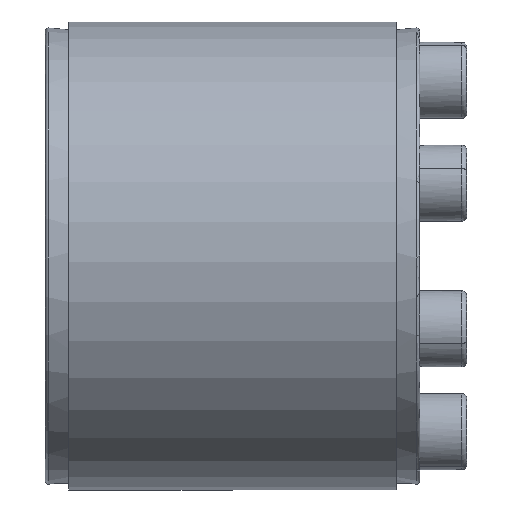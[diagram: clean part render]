
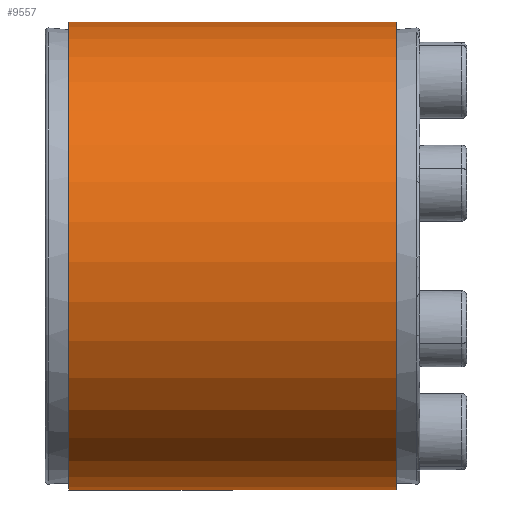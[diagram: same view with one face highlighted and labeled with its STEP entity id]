
A CAD part, front view. The second image highlights one B-rep face of the part: STEP entity #9557.
In plain terms, the highlighted cylindrical face has radius 40 mm (diameter 80 mm), a partial arc.
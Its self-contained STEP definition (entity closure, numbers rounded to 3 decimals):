
#8966=CARTESIAN_POINT('',(-28.,0.,0.));
#8967=DIRECTION('',(-1.,0.,0.));
#8968=DIRECTION('',(0.,0.,1.));
#8969=AXIS2_PLACEMENT_3D('',#8966,#8967,#8968);
#8974=DIRECTION('',(1.,0.,0.));
#8975=VECTOR('',#8974,56.);
#8976=CARTESIAN_POINT('',(-28.,-1.396,39.976));
#8977=LINE('',#8976,#8975);
#8981=CARTESIAN_POINT('',(28.,0.,0.));
#8982=DIRECTION('',(1.,0.,0.));
#8983=DIRECTION('',(0.,-0.035,0.999));
#8984=AXIS2_PLACEMENT_3D('',#8981,#8982,#8983);
#8989=DIRECTION('',(1.,0.,0.));
#8990=VECTOR('',#8989,56.);
#8991=CARTESIAN_POINT('',(-28.,0.,40.));
#8992=LINE('',#8991,#8990);
#9373=CARTESIAN_POINT('',(-28.,0.,40.));
#9375=VERTEX_POINT('',#9373);
#9377=CARTESIAN_POINT('',(-28.,-1.396,39.976));
#9379=VERTEX_POINT('',#9377);
#9401=CARTESIAN_POINT('',(28.,0.,40.));
#9402=VERTEX_POINT('',#9401);
#9403=CARTESIAN_POINT('',(28.,-1.396,39.976));
#9404=VERTEX_POINT('',#9403);
#9544=CARTESIAN_POINT('',(-30.8,0.,0.));
#9545=DIRECTION('',(1.,0.,0.));
#9546=DIRECTION('',(0.,-1.,0.));
#9547=AXIS2_PLACEMENT_3D('',#9544,#9545,#9546);
#9548=CYLINDRICAL_SURFACE('',#9547,40.);
#9550=ORIENTED_EDGE('',*,*,#9549,.T.);
#9552=ORIENTED_EDGE('',*,*,#9551,.T.);
#9553=ORIENTED_EDGE('',*,*,#9536,.T.);
#9554=ORIENTED_EDGE('',*,*,#9508,.F.);
#9555=EDGE_LOOP('',(#9550,#9552,#9553,#9554));
#9556=FACE_OUTER_BOUND('',#9555,.F.);
#9557=ADVANCED_FACE('',(#9556),#9548,.T.);
#8970=CIRCLE('',#8969,40.);
#8985=CIRCLE('',#8984,40.);
#9508=EDGE_CURVE('',#9375,#9402,#8992,.T.);
#9536=EDGE_CURVE('',#9404,#9402,#8985,.T.);
#9549=EDGE_CURVE('',#9375,#9379,#8970,.T.);
#9551=EDGE_CURVE('',#9379,#9404,#8977,.T.);
